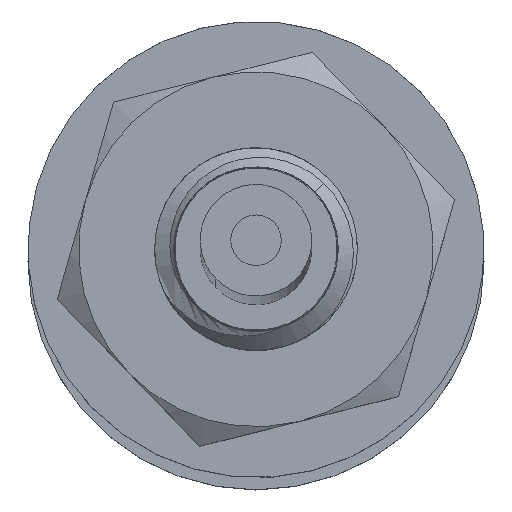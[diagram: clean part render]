
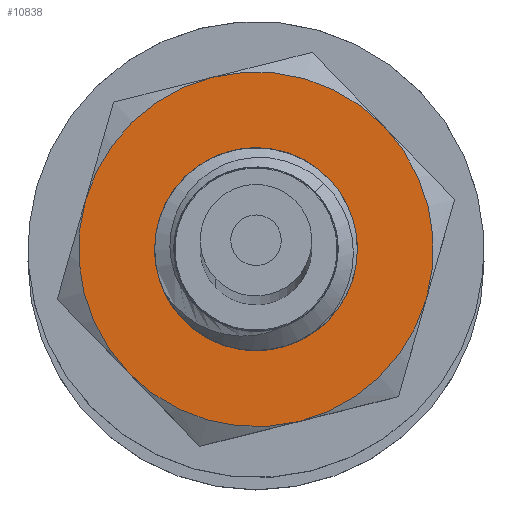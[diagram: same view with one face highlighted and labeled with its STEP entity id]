
A CAD part, top view. The second image highlights one B-rep face of the part: STEP entity #10838.
In plain terms, the highlighted planar face has unit normal (0, 0, 1).
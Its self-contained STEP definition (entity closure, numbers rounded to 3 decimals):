
#137 = CIRCLE ( 'NONE', #8616, 3.5 ) ;
#275 = VERTEX_POINT ( 'NONE', #10633 ) ;
#302 = FACE_BOUND ( 'NONE', #3072, .T. ) ;
#595 = CARTESIAN_POINT ( 'NONE',  ( -66.934, 7.755, 146.62 ) ) ;
#606 = DIRECTION ( 'NONE',  ( 0., 0., -1. ) ) ;
#845 = AXIS2_PLACEMENT_3D ( 'NONE', #8739, #880, #7740 ) ;
#880 = DIRECTION ( 'NONE',  ( 0., 0., -1. ) ) ;
#1003 = EDGE_CURVE ( 'NONE', #2649, #8465, #1551, .T. ) ;
#1256 = EDGE_CURVE ( 'NONE', #8465, #8785, #9202, .T. ) ;
#1282 = CARTESIAN_POINT ( 'NONE',  ( -66.449, 5.815, 146.62 ) ) ;
#1460 = PLANE ( 'NONE',  #11936 ) ;
#1551 = CIRCLE ( 'NONE', #3259, 3.5 ) ;
#1623 = CARTESIAN_POINT ( 'NONE',  ( -69.814, 6.776, 146.62 ) ) ;
#2052 = CARTESIAN_POINT ( 'NONE',  ( -65.599, 2.419, 146.62 ) ) ;
#2287 = DIRECTION ( 'NONE',  ( 0.243, -0.97, 0. ) ) ;
#2376 = DIRECTION ( 'NONE',  ( -0.243, 0.97, 0. ) ) ;
#2649 = VERTEX_POINT ( 'NONE', #10045 ) ;
#2661 = EDGE_CURVE ( 'NONE', #8785, #8352, #137, .T. ) ;
#2832 = DIRECTION ( 'NONE',  ( 0.243, -0.97, 0. ) ) ;
#2889 = EDGE_CURVE ( 'NONE', #11741, #2649, #5349, .T. ) ;
#3026 = DIRECTION ( 'NONE',  ( -0.243, 0.97, 0. ) ) ;
#3072 = EDGE_LOOP ( 'NONE', ( #6489, #12506 ) ) ;
#3259 = AXIS2_PLACEMENT_3D ( 'NONE', #12480, #8675, #2832 ) ;
#3341 = CIRCLE ( 'NONE', #845, 3.5 ) ;
#3393 = DIRECTION ( 'NONE',  ( 0., 0., -1. ) ) ;
#3475 = CARTESIAN_POINT ( 'NONE',  ( -68.964, 3.381, 146.62 ) ) ;
#4236 = FACE_OUTER_BOUND ( 'NONE', #7272, .T. ) ;
#4329 = CARTESIAN_POINT ( 'NONE',  ( -67.298, 9.21, 146.62 ) ) ;
#4354 = DIRECTION ( 'NONE',  ( 0., 0., 1. ) ) ;
#5191 = CIRCLE ( 'NONE', #9510, 2. ) ;
#5260 = AXIS2_PLACEMENT_3D ( 'NONE', #8332, #606, #6338 ) ;
#5273 = DIRECTION ( 'NONE',  ( 0., 0., 1. ) ) ;
#5349 = CIRCLE ( 'NONE', #11060, 3.5 ) ;
#5436 = CIRCLE ( 'NONE', #6293, 3.5 ) ;
#5447 = CARTESIAN_POINT ( 'NONE',  ( -63.083, 4.853, 146.62 ) ) ;
#6269 = DIRECTION ( 'NONE',  ( -0.243, 0.97, 0. ) ) ;
#6293 = AXIS2_PLACEMENT_3D ( 'NONE', #7352, #4354, #6269 ) ;
#6338 = DIRECTION ( 'NONE',  ( 0.243, -0.97, 0. ) ) ;
#6349 = ORIENTED_EDGE ( 'NONE', *, *, #1003, .F. ) ;
#6489 = ORIENTED_EDGE ( 'NONE', *, *, #9432, .F. ) ;
#6635 = DIRECTION ( 'NONE',  ( 0.243, -0.97, 0. ) ) ;
#6671 = EDGE_CURVE ( 'NONE', #11741, #11100, #5436, .T. ) ;
#7272 = EDGE_LOOP ( 'NONE', ( #9438, #10933, #6349, #8399, #7914, #10813 ) ) ;
#7352 = CARTESIAN_POINT ( 'NONE',  ( -66.449, 5.815, 146.62 ) ) ;
#7740 = DIRECTION ( 'NONE',  ( 0.243, -0.97, 0. ) ) ;
#7830 = CARTESIAN_POINT ( 'NONE',  ( -66.449, 5.815, 146.62 ) ) ;
#7914 = ORIENTED_EDGE ( 'NONE', *, *, #6671, .T. ) ;
#8267 = DIRECTION ( 'NONE',  ( 0.243, -0.97, 0. ) ) ;
#8332 = CARTESIAN_POINT ( 'NONE',  ( -66.449, 5.815, 146.62 ) ) ;
#8352 = VERTEX_POINT ( 'NONE', #3475 ) ;
#8371 = EDGE_CURVE ( 'NONE', #275, #11835, #10128, .T. ) ;
#8399 = ORIENTED_EDGE ( 'NONE', *, *, #2889, .F. ) ;
#8465 = VERTEX_POINT ( 'NONE', #5447 ) ;
#8616 = AXIS2_PLACEMENT_3D ( 'NONE', #1282, #9115, #2287 ) ;
#8675 = DIRECTION ( 'NONE',  ( 0., 0., -1. ) ) ;
#8739 = CARTESIAN_POINT ( 'NONE',  ( -66.449, 5.815, 146.62 ) ) ;
#8785 = VERTEX_POINT ( 'NONE', #2052 ) ;
#9115 = DIRECTION ( 'NONE',  ( 0., 0., -1. ) ) ;
#9202 = CIRCLE ( 'NONE', #5260, 3.5 ) ;
#9253 = CARTESIAN_POINT ( 'NONE',  ( -70.369, 4.833, 146.62 ) ) ;
#9432 = EDGE_CURVE ( 'NONE', #11835, #275, #5191, .T. ) ;
#9438 = ORIENTED_EDGE ( 'NONE', *, *, #2661, .F. ) ;
#9510 = AXIS2_PLACEMENT_3D ( 'NONE', #7830, #9941, #3026 ) ;
#9941 = DIRECTION ( 'NONE',  ( 0., 0., 1. ) ) ;
#10045 = CARTESIAN_POINT ( 'NONE',  ( -63.933, 8.248, 146.62 ) ) ;
#10057 = AXIS2_PLACEMENT_3D ( 'NONE', #10129, #5273, #2376 ) ;
#10128 = CIRCLE ( 'NONE', #10057, 2. ) ;
#10129 = CARTESIAN_POINT ( 'NONE',  ( -66.449, 5.815, 146.62 ) ) ;
#10371 = CARTESIAN_POINT ( 'NONE',  ( -66.449, 5.815, 146.62 ) ) ;
#10451 = DIRECTION ( 'NONE',  ( 0., 0., -1. ) ) ;
#10633 = CARTESIAN_POINT ( 'NONE',  ( -65.963, 3.874, 146.62 ) ) ;
#10813 = ORIENTED_EDGE ( 'NONE', *, *, #12584, .F. ) ;
#10838 = ADVANCED_FACE ( 'NONE', ( #302, #4236 ), #1460, .F. ) ;
#10933 = ORIENTED_EDGE ( 'NONE', *, *, #1256, .F. ) ;
#11060 = AXIS2_PLACEMENT_3D ( 'NONE', #10371, #10451, #6635 ) ;
#11100 = VERTEX_POINT ( 'NONE', #1623 ) ;
#11741 = VERTEX_POINT ( 'NONE', #4329 ) ;
#11835 = VERTEX_POINT ( 'NONE', #595 ) ;
#11936 = AXIS2_PLACEMENT_3D ( 'NONE', #9253, #3393, #8267 ) ;
#12480 = CARTESIAN_POINT ( 'NONE',  ( -66.449, 5.815, 146.62 ) ) ;
#12506 = ORIENTED_EDGE ( 'NONE', *, *, #8371, .F. ) ;
#12584 = EDGE_CURVE ( 'NONE', #8352, #11100, #3341, .T. ) ;
